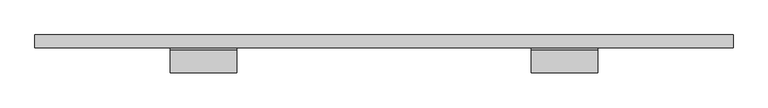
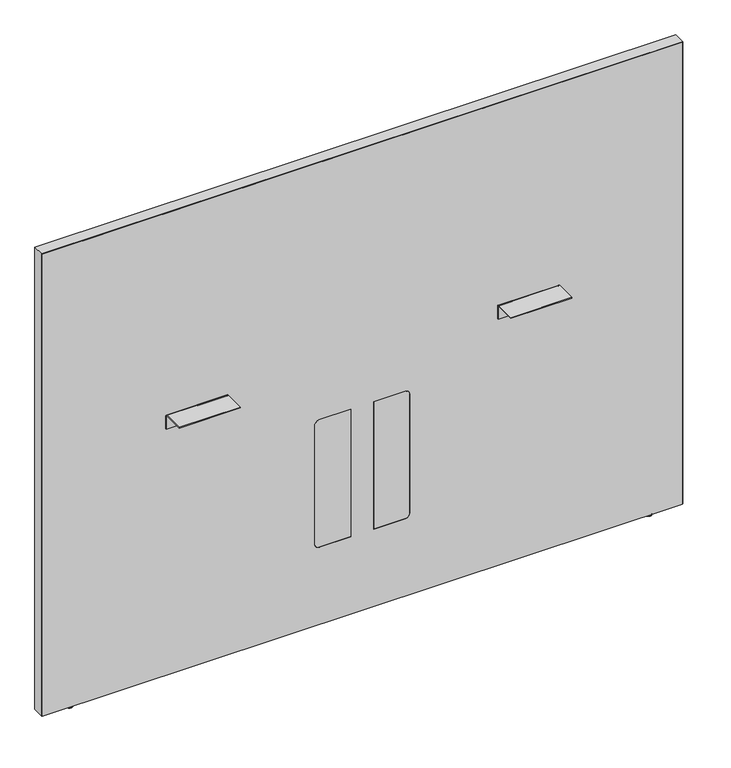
"""IFC4 building model written with IfcOpenShell, lengths in millimetres: furniture geometry, Steelcase - Answer Solution - Boundary Screen - Straight - Spanning : 48H x 63W."""

import ifcopenshell
import ifcopenshell.guid

model = None  # the IFC model being written
_history = None  # IfcOwnerHistory: only IFC2X3 demands one
_inside = {}  # id of a spatial element -> (the spatial element, [elements in it])
_under = {}  # id of a project, library or spatial element -> (it, [spatial elements below it])
_declared = {}  # id of a project -> (the project, [libraries it declares])
_typed = {}  # id of a type object -> (the type object, [elements of that type])
_made_of = {}  # id of a material, layer set ... -> (it, [elements and type objects made of it])


def new_model(schema):
    """Start an empty IFC model of exactly this schema.

    Asked for "IFC4X3", IfcOpenShell would pick the latest addendum, in which some entities
    have other attributes; the version numbers below select the first issue.
    IFC2X3 requires an IfcOwnerHistory on every rooted entity: one is made here for all.
    """
    global model, _history
    if schema == "IFC4X3":
        model = ifcopenshell.file(schema_version=(4, 3, 0, 0))
    else:
        model = ifcopenshell.file(schema=schema)
    _inside.clear()
    _under.clear()
    _declared.clear()
    _typed.clear()
    _made_of.clear()
    _history = None
    if model.schema == "IFC2X3":
        org = make("IfcOrganization", Name="unknown")
        user = make(
            "IfcPersonAndOrganization",
            ThePerson=make("IfcPerson", FamilyName="unknown"),
            TheOrganization=org,
        )
        app = make(
            "IfcApplication",
            ApplicationDeveloper=org,
            Version="unknown",
            ApplicationFullName="unknown",
            ApplicationIdentifier="unknown",
        )
        _history = make(
            "IfcOwnerHistory",
            OwningUser=user,
            OwningApplication=app,
            ChangeAction="ADDED",
            CreationDate=0,
        )
    return model


def make(cls, **values):
    """One entity of the class cls with the attributes given. An attribute that is None is left unset."""
    return model.create_entity(
        cls, **{name: value for name, value in values.items() if value is not None}
    )


def rooted(cls, **values):
    """An entity with a GlobalId (a new one), such as an element, a storey or a relation."""
    return make(cls, GlobalId=ifcopenshell.guid.new(), OwnerHistory=_history, **values)


def si_unit(unit_type, name, prefix=None):
    """IfcSIUnit, for example si_unit("LENGTHUNIT", "METRE", prefix="MILLI")."""
    return make("IfcSIUnit", UnitType=unit_type, Prefix=prefix, Name=name)


def assignment(units):
    """IfcUnitAssignment: the units of a project."""
    return None if units is None else make("IfcUnitAssignment", Units=units)


def point(xyz):
    """IfcCartesianPoint."""
    return None if xyz is None else make("IfcCartesianPoint", Coordinates=xyz)


def direction(xyz):
    """IfcDirection."""
    return None if xyz is None else make("IfcDirection", DirectionRatios=xyz)


def frame(location, z_axis=None, x_axis=None):
    """IfcAxis2Placement3D, a coordinate frame: its origin and axes. An axis left out is left unset."""
    return make(
        "IfcAxis2Placement3D",
        Location=point(location),
        Axis=direction(z_axis),
        RefDirection=direction(x_axis),
    )


def frame_2d(location, x_axis=None):
    """IfcAxis2Placement2D, a coordinate frame in the plane: its origin and x axis."""
    return make(
        "IfcAxis2Placement2D", Location=point(location), RefDirection=direction(x_axis)
    )


def origin():
    """The frame at (0, 0, 0) with its axes left unset."""
    return frame((0.0, 0.0, 0.0))


def place(relative_to, where):
    """IfcLocalPlacement: puts the frame where relative to a parent placement (None: the world)."""
    return make(
        "IfcLocalPlacement", PlacementRelTo=relative_to, RelativePlacement=where
    )


def context(
    kind, dimensions, precision=None, world=None, true_north=None, identifier=None
):
    """IfcGeometricRepresentationContext, for example the 3D "Model" context."""
    return make(
        "IfcGeometricRepresentationContext",
        ContextIdentifier=identifier,
        ContextType=kind,
        CoordinateSpaceDimension=dimensions,
        Precision=precision,
        WorldCoordinateSystem=world,
        TrueNorth=true_north,
    )


def project(units=None, contexts=None):
    """IfcProject with its units and contexts."""
    return rooted(
        "IfcProject",
        Name="project",
        RepresentationContexts=contexts,
        UnitsInContext=assignment(units),
    )


def spatial(cls, under=None, at=None, **own):
    """A site, building, storey or space (cls), placed at a placement, below another one or the project."""
    s = rooted(cls, ObjectPlacement=at, **own)
    if under is not None:
        _under.setdefault(under.id(), (under, []))[1].append(s)
    return s


def polyline(points):
    """IfcPolyline through the points."""
    return make("IfcPolyline", Points=[point(p) for p in points])


def circle_curve(where, radius):
    """IfcCircle in the frame where."""
    return make("IfcCircle", Position=where, Radius=radius)


def ellipse_curve(where, semi_axis1, semi_axis2):
    """IfcEllipse in the frame where."""
    return make(
        "IfcEllipse", Position=where, SemiAxis1=semi_axis1, SemiAxis2=semi_axis2
    )


def trimmed(basis, trim1, trim2, sense, master):
    """IfcTrimmedCurve: the piece of a basis curve between two trims."""
    return make(
        "IfcTrimmedCurve",
        BasisCurve=basis,
        Trim1=trim1,
        Trim2=trim2,
        SenseAgreement=sense,
        MasterRepresentation=master,
    )


def segment(curve, same_sense, transition):
    """IfcCompositeCurveSegment."""
    return make(
        "IfcCompositeCurveSegment",
        Transition=transition,
        SameSense=same_sense,
        ParentCurve=curve,
    )


def composite_curve(segments, self_intersect=None):
    """IfcCompositeCurve: segments joined end to end."""
    return make("IfcCompositeCurve", Segments=segments, SelfIntersect=self_intersect)


def outline(outer, holes=None, kind="AREA"):
    """IfcArbitraryClosedProfileDef: a profile drawn as a closed curve; with holes, ...WithVoids."""
    if holes is None:
        return make("IfcArbitraryClosedProfileDef", ProfileType=kind, OuterCurve=outer)
    return make(
        "IfcArbitraryProfileDefWithVoids",
        ProfileType=kind,
        OuterCurve=outer,
        InnerCurves=holes,
    )


def extrude(swept, where, along, depth):
    """IfcExtrudedAreaSolid: the profile swept, set in the frame where, extruded along a direction by depth."""
    return make(
        "IfcExtrudedAreaSolid",
        SweptArea=swept,
        Position=where,
        ExtrudedDirection=direction(along),
        Depth=depth,
    )


def shape(context_of_items, identifier, shape_type, items):
    """IfcShapeRepresentation: the items that make up one representation, for example the "Body"."""
    return make(
        "IfcShapeRepresentation",
        ContextOfItems=context_of_items,
        RepresentationIdentifier=identifier,
        RepresentationType=shape_type,
        Items=items,
    )


def source(mapping_origin, context_of_items, identifier, shape_type, items):
    """IfcRepresentationMap: a shape defined once, which mapped items show again and again."""
    return make(
        "IfcRepresentationMap",
        MappingOrigin=mapping_origin,
        MappedRepresentation=shape(context_of_items, identifier, shape_type, items),
    )


def transform(
    local_origin,
    x_axis=None,
    y_axis=None,
    z_axis=None,
    scale=None,
    scale2=None,
    scale3=None,
    uniform=True,
):
    """IfcCartesianTransformationOperator3D, or its non-uniform kind. x_axis, y_axis, z_axis: its Axis1, 2, 3."""
    if uniform:
        return make(
            "IfcCartesianTransformationOperator3D",
            Axis1=direction(x_axis),
            Axis2=direction(y_axis),
            LocalOrigin=point(local_origin),
            Scale=scale,
            Axis3=direction(z_axis),
        )
    return make(
        "IfcCartesianTransformationOperator3DnonUniform",
        Axis1=direction(x_axis),
        Axis2=direction(y_axis),
        LocalOrigin=point(local_origin),
        Scale=scale,
        Axis3=direction(z_axis),
        Scale2=scale2,
        Scale3=scale3,
    )


def mapped(mapping_source, mapping_target):
    """IfcMappedItem: shows the shape of a source again, moved by a transform."""
    return make(
        "IfcMappedItem", MappingSource=mapping_source, MappingTarget=mapping_target
    )


def made_of(thing, what):
    """Note that an element or type object is made of a material, layer set ...; save() writes the relation."""
    if what is not None:
        _made_of.setdefault(what.id(), (what, []))[1].append(thing)
    return thing


def element(
    cls,
    number,
    at=None,
    inside=None,
    cuts=None,
    type_object=None,
    material=None,
    context=None,
    identifier="Body",
    shape_type=None,
    held_by="IfcProductDefinitionShape",
    body=None,
    shapes=None,
    **own,
):
    """One element of the class cls, such as IfcWall. Its Tag is "e" and its number.

    at: its placement. inside: the storey or other place that contains it. cuts: it is an
    opening in that element (IfcRelVoidsElement). A single representation is given by context,
    identifier, shape_type and body (its items); several are given by shapes. held_by: the class
    of the entity that holds the representations. save() writes the other relations.
    """
    e = rooted(cls, Tag="e%d" % number, ObjectPlacement=at, **own)
    if body is not None:
        shapes = [shape(context, identifier, shape_type, body)]
    if shapes is not None:
        e.Representation = make(held_by, Representations=shapes)
    if inside is not None:
        _inside.setdefault(inside.id(), (inside, []))[1].append(e)
    if cuts is not None:
        rooted(
            "IfcRelVoidsElement", RelatingBuildingElement=cuts, RelatedOpeningElement=e
        )
    if type_object is not None:
        _typed.setdefault(type_object.id(), (type_object, []))[1].append(e)
    return made_of(e, material)


def aggregate(whole, parts):
    """IfcRelAggregates: a whole, such as a stair, and the parts it consists of."""
    return rooted("IfcRelAggregates", RelatingObject=whole, RelatedObjects=parts)


def save(model, path):
    """Write the relations noted so far, then the file.

    IfcRelAggregates (storeys below a building ...), IfcRelContainedInSpatialStructure (elements
    in a storey), IfcRelDefinesByType, IfcRelAssociatesMaterial and IfcRelDeclares: one each for
    every whole, place, type object, material and project.
    """
    for whole, parts in _under.values():
        aggregate(whole, parts)
    for where, things in _inside.values():
        rooted(
            "IfcRelContainedInSpatialStructure",
            RelatedElements=things,
            RelatingStructure=where,
        )
    for kind, things in _typed.values():
        rooted("IfcRelDefinesByType", RelatedObjects=things, RelatingType=kind)
    for what, things in _made_of.values():
        rooted("IfcRelAssociatesMaterial", RelatedObjects=things, RelatingMaterial=what)
    for by, libraries in _declared.values():
        rooted("IfcRelDeclares", RelatingContext=by, RelatedDefinitions=libraries)
    model.write(path)


def plane_surface(at):
    """IfcPlane: the flat surface through the origin of the frame at, square to its z axis."""
    return make("IfcPlane", Position=at)


def cylinder_surface(at, radius):
    """IfcCylindricalSurface: all points at the distance radius from the z axis of the frame at."""
    return make("IfcCylindricalSurface", Position=at, Radius=radius)


def revolved_surface(curve, axis_point, axis_direction):
    """IfcSurfaceOfRevolution: the curve turned about the line through axis_point along axis_direction."""
    return make(
        "IfcSurfaceOfRevolution",
        SweptCurve=make("IfcArbitraryOpenProfileDef", ProfileType="CURVE", Curve=curve),
        AxisPosition=make("IfcAxis1Placement", Location=point(axis_point), Axis=direction(axis_direction)),
    )


def advanced_brep(points, edges, surfaces, faces):
    """IfcAdvancedBrep: a solid bounded by faces that lie on surfaces and meet in shared edges.

    An edge is (start, end): straight between two places in points (the first is 0);
    or (start, end, curve); or (start, end, curve, False) where it runs against its curve.
    A face is (place in surfaces, loops), or (place, loops, False) where it looks against
    its surface's normal. A loop lists edges by number (the first is 1), with a minus sign
    where the edge is run from its end to its start. The first loop is the outer one.
    """
    corners = [point(p) for p in points]
    vertices = [make("IfcVertexPoint", VertexGeometry=c) for c in corners]
    made = []
    for start, end, *more in edges:
        made.append(
            make(
                "IfcEdgeCurve",
                EdgeStart=vertices[start],
                EdgeEnd=vertices[end],
                EdgeGeometry=more[0] if more else make("IfcPolyline", Points=[corners[start], corners[end]]),
                SameSense=more[1] if len(more) > 1 else True,
            )
        )
    hull = []
    for where, loops, *sense in faces:
        bounds = []
        for j, loop in enumerate(loops):
            ring = [make("IfcOrientedEdge", EdgeElement=made[abs(k) - 1], Orientation=k > 0) for k in loop]
            bounds.append(
                make(
                    "IfcFaceOuterBound" if j == 0 else "IfcFaceBound",
                    Bound=make("IfcEdgeLoop", EdgeList=ring),
                    Orientation=True,
                )
            )
        hull.append(make("IfcAdvancedFace", Bounds=bounds, FaceSurface=surfaces[where], SameSense=sense[0] if sense else True))
    return make("IfcAdvancedBrep", Outer=make("IfcClosedShell", CfsFaces=hull))


def furniture_06fa584e(model_context):
    return source(origin(), model_context, "Body", "SolidModel", [
        advanced_brep(
        [(-493.0902705, -14.8449166, 9.9059849), (-493.0902705, -5.9309607, 9.9059849), (-493.0902705, -23.7588726, 9.9059849), (-493.0902705, -5.9309607, 2.9673238), (-493.0902705, -23.7588726, 2.9673238), (-493.0902705, -6.8982978, 2.9673238), (-493.0902705, -22.7915354, 2.9673238), (-493.0902705, -6.8982978, 1.6569081), (-493.0902705, -22.7915354, 1.6569081), (-493.0902705, -8.5552059, 0.0), (-493.0902705, -21.1346274, 0.0), (-493.0902705, -14.8449166, 0.0)],
        [
            (0, 1),
            (1, 2, circle_curve(frame((-493.0902705, -14.8449166, 9.9059849), z_axis=(0.0, 0.0, 1.0), x_axis=(0.0, 1.0, 0.0)), 8.913956)),
            (2, 0),
            (2, 1, circle_curve(frame((-493.0902705, -14.8449166, 9.9059849), z_axis=(0.0, 0.0, 1.0), x_axis=(0.0, 1.0, 0.0)), 8.913956)),
            (1, 3),
            (3, 4, circle_curve(frame((-493.0902705, -14.8449166, 2.9673238), z_axis=(0.0, 0.0, 1.0), x_axis=(0.0, 1.0, 0.0)), 8.913956)),
            (4, 2),
            (4, 3, circle_curve(frame((-493.0902705, -14.8449166, 2.9673238), z_axis=(0.0, 0.0, 1.0), x_axis=(0.0, 1.0, 0.0)), 8.913956)),
            (3, 5),
            (5, 6, circle_curve(frame((-493.0902705, -14.8449166, 2.9673238), z_axis=(0.0, 0.0, 1.0), x_axis=(0.0, 1.0, 0.0)), 7.9466188)),
            (6, 4),
            (6, 5, circle_curve(frame((-493.0902705, -14.8449166, 2.9673238), z_axis=(0.0, 0.0, 1.0), x_axis=(0.0, 1.0, 0.0)), 7.9466188)),
            (5, 7),
            (7, 8, circle_curve(frame((-493.0902705, -14.8449166, 1.6569081), z_axis=(0.0, 0.0, 1.0), x_axis=(0.0, 1.0, 0.0)), 7.9466188)),
            (8, 6),
            (8, 7, circle_curve(frame((-493.0902705, -14.8449166, 1.6569081), z_axis=(0.0, 0.0, 1.0), x_axis=(0.0, 1.0, 0.0)), 7.9466188)),
            (7, 9, circle_curve(frame((-493.0902705, -8.5552059, 1.6569081), z_axis=(-1.0, 0.0, 0.0), x_axis=(0.0, 1.0, 0.0)), 1.6569081)),
            (9, 10, circle_curve(frame((-493.0902705, -14.8449166, 0.0), z_axis=(0.0, 0.0, 1.0), x_axis=(0.0, 1.0, 0.0)), 6.2897107)),
            (10, 8, circle_curve(frame((-493.0902705, -21.1346274, 1.6569081), z_axis=(-1.0, 0.0, 0.0), x_axis=(0.0, -1.0, 0.0)), 1.6569081)),
            (10, 9, circle_curve(frame((-493.0902705, -14.8449166, 0.0), z_axis=(0.0, 0.0, 1.0), x_axis=(0.0, 1.0, 0.0)), 6.2897107)),
            (9, 11),
            (11, 10),
        ],
        [
            plane_surface(frame((-493.0902705, -14.8449166, 9.9059849), z_axis=(0.0, 0.0, 1.0), x_axis=(0.0, 1.0, 0.0))),
            cylinder_surface(frame((-493.0902705, -14.8449166, 9.9059849), z_axis=(0.0, 0.0, 1.0), x_axis=(0.0, 1.0, 0.0)), 8.913956),
            plane_surface(frame((-493.0902705, -14.8449166, 2.9673238), z_axis=(0.0, 0.0, -1.0), x_axis=(0.0, 1.0, 0.0))),
            cylinder_surface(frame((-493.0902705, -14.8449166, 9.9059849), z_axis=(0.0, 0.0, 1.0), x_axis=(0.0, 1.0, 0.0)), 7.9466188),
            revolved_surface(trimmed(ellipse_curve(frame((-493.0902705, -8.5552059, 1.6569081), z_axis=(1.0, 0.0, 0.0), x_axis=(0.0, 1.0, 0.0)), 1.6569081, 1.6569081), [point((-493.0902705, -8.5552059, 0.0))], [point((-493.0902705, -6.8982978, 1.6569081))], True, "CARTESIAN"), (-493.0902705, -14.8449166, 9.9059849), (0.0, 0.0, 1.0)),
            plane_surface(frame((-493.0902705, -14.8449166, 0.0), z_axis=(0.0, 0.0, -1.0), x_axis=(0.0, 1.0, 0.0))),
        ],
        [
            (0, [[1, 2, 3]]),
            (0, [[-3, 4, -1]]),
            (1, [[-2, 5, 6, 7]]),
            (1, [[-4, -7, 8, -5]]),
            (2, [[-6, 9, 10, 11]]),
            (2, [[-8, -11, 12, -9]]),
            (3, [[-10, 13, 14, 15]]),
            (3, [[-12, -15, 16, -13]]),
            (4, [[-14, 17, 18, 19]]),
            (4, [[-16, -19, 20, -17]]),
            (5, [[-18, 21, 22]]),
            (5, [[-20, -22, -21]]),
        ],
    ),
        extrude(outline(composite_curve([segment(polyline([(-86.8398151, 696.4680019), (-86.8398151, 698.5), (-34.9450855, 698.5)]), True, "CONTINUOUS"), segment(trimmed(circle_curve(frame_2d((-34.9450855, 693.2447477)), 5.2552523), [point((-34.9450855, 698.5))], [point((-29.6898332, 693.2447477))], False, "CARTESIAN"), True, "CONTINUOUS"), segment(polyline([(-29.6898332, 693.2447477), (-29.6898332, 660.4), (-31.7218162, 660.4), (-31.7218162, 693.0058743)]), True, "CONTINUOUS"), segment(trimmed(circle_curve(frame_2d((-35.1839438, 693.0058743)), 3.4621276), [point((-31.7218162, 693.0058743))], [point((-35.1839438, 696.4680019))], True, "CARTESIAN"), True, "CONTINUOUS"), segment(polyline([(-35.1839438, 696.4680019), (-86.8398151, 696.4680019)]), True, "CONTINUOUS")], self_intersect=False)), frame((567.8282189, 0.0, 0.0), z_axis=(1.0, 0.0, 0.0), x_axis=(0.0, 1.0, 0.0)), (0.0, 0.0, 1.0), 152.4000969),
        extrude(outline(composite_curve([segment(polyline([(-86.8398151, 696.4680019), (-86.8398151, 698.5), (-34.9450855, 698.5)]), True, "CONTINUOUS"), segment(trimmed(circle_curve(frame_2d((-34.9450855, 693.2447477)), 5.2552523), [point((-34.9450855, 698.5))], [point((-29.6898332, 693.2447477))], False, "CARTESIAN"), True, "CONTINUOUS"), segment(polyline([(-29.6898332, 693.2447477), (-29.6898332, 660.4), (-31.7218162, 660.4), (-31.7218162, 693.0058743)]), True, "CONTINUOUS"), segment(trimmed(circle_curve(frame_2d((-35.1839438, 693.0058743)), 3.4621276), [point((-31.7218162, 693.0058743))], [point((-35.1839438, 696.4680019))], True, "CARTESIAN"), True, "CONTINUOUS"), segment(polyline([(-35.1839438, 696.4680019), (-86.8398151, 696.4680019)]), True, "CONTINUOUS")], self_intersect=False)), frame((-260.5884581, 0.0, 0.0), z_axis=(1.0, 0.0, 0.0), x_axis=(0.0, 1.0, 0.0)), (0.0, 0.0, 1.0), 152.4000969),
        advanced_brep(
        [(952.7286488, -23.7588726, 9.9059849), (952.7286488, -5.9309607, 9.9059849), (952.7286488, -14.8449166, 9.9059849), (952.7286488, -23.7588726, 2.9673238), (952.7286488, -5.9309607, 2.9673238), (952.7286488, -22.7915354, 2.9673238), (952.7286488, -6.8982978, 2.9673238), (952.7286488, -22.7915354, 1.6569081), (952.7286488, -6.8982978, 1.6569081), (952.7286488, -21.1346274, 0.0), (952.7286488, -8.5552059, 0.0), (952.7286488, -14.8449166, 0.0)],
        [
            (0, 1, circle_curve(frame((952.7286488, -14.8449166, 9.9059849), z_axis=(0.0, 0.0, 1.0), x_axis=(0.0, 1.0, 0.0)), 8.913956)),
            (1, 2),
            (2, 0),
            (1, 0, circle_curve(frame((952.7286488, -14.8449166, 9.9059849), z_axis=(0.0, 0.0, 1.0), x_axis=(0.0, 1.0, 0.0)), 8.913956)),
            (3, 4, circle_curve(frame((952.7286488, -14.8449166, 2.9673238), z_axis=(0.0, 0.0, 1.0), x_axis=(0.0, 1.0, 0.0)), 8.913956)),
            (4, 1),
            (0, 3),
            (4, 3, circle_curve(frame((952.7286488, -14.8449166, 2.9673238), z_axis=(0.0, 0.0, 1.0), x_axis=(0.0, 1.0, 0.0)), 8.913956)),
            (5, 6, circle_curve(frame((952.7286488, -14.8449166, 2.9673238), z_axis=(0.0, 0.0, 1.0), x_axis=(0.0, 1.0, 0.0)), 7.9466188)),
            (6, 4),
            (3, 5),
            (6, 5, circle_curve(frame((952.7286488, -14.8449166, 2.9673238), z_axis=(0.0, 0.0, 1.0), x_axis=(0.0, 1.0, 0.0)), 7.9466188)),
            (7, 8, circle_curve(frame((952.7286488, -14.8449166, 1.6569081), z_axis=(0.0, 0.0, 1.0), x_axis=(0.0, 1.0, 0.0)), 7.9466188)),
            (8, 6),
            (5, 7),
            (8, 7, circle_curve(frame((952.7286488, -14.8449166, 1.6569081), z_axis=(0.0, 0.0, 1.0), x_axis=(0.0, 1.0, 0.0)), 7.9466188)),
            (9, 10, circle_curve(frame((952.7286488, -14.8449166, 0.0), z_axis=(0.0, 0.0, 1.0), x_axis=(0.0, 1.0, 0.0)), 6.2897107)),
            (10, 8, circle_curve(frame((952.7286488, -8.5552059, 1.6569081), z_axis=(1.0, 0.0, 0.0), x_axis=(0.0, 1.0, 0.0)), 1.6569081)),
            (7, 9, circle_curve(frame((952.7286488, -21.1346274, 1.6569081), z_axis=(1.0, 0.0, 0.0), x_axis=(0.0, -1.0, 0.0)), 1.6569081)),
            (10, 9, circle_curve(frame((952.7286488, -14.8449166, 0.0), z_axis=(0.0, 0.0, 1.0), x_axis=(0.0, 1.0, 0.0)), 6.2897107)),
            (11, 10),
            (9, 11),
        ],
        [
            plane_surface(frame((952.7286488, -14.8449166, 9.9059849), z_axis=(0.0, 0.0, 1.0), x_axis=(0.0, 1.0, 0.0))),
            cylinder_surface(frame((952.7286488, -14.8449166, 9.9059849), z_axis=(0.0, 0.0, -1.0), x_axis=(0.0, 1.0, 0.0)), 8.913956),
            plane_surface(frame((952.7286488, -14.8449166, 2.9673238), z_axis=(0.0, 0.0, -1.0), x_axis=(0.0, 1.0, 0.0))),
            cylinder_surface(frame((952.7286488, -14.8449166, 9.9059849), z_axis=(0.0, 0.0, -1.0), x_axis=(0.0, 1.0, 0.0)), 7.9466188),
            revolved_surface(trimmed(ellipse_curve(frame((952.7286488, -8.5552059, 1.6569081), z_axis=(-1.0, 0.0, 0.0), x_axis=(0.0, 1.0, 0.0)), 1.6569081, 1.6569081), [point((952.7286488, -6.8982978, 1.6569081))], [point((952.7286488, -8.5552059, 0.0))], True, "CARTESIAN"), (952.7286488, -14.8449166, 9.9059849), (0.0, 0.0, -1.0)),
            plane_surface(frame((952.7286488, -14.8449166, 0.0), z_axis=(0.0, 0.0, -1.0), x_axis=(0.0, 1.0, 0.0))),
        ],
        [
            (0, [[1, 2, 3]]),
            (0, [[4, -3, -2]]),
            (1, [[5, 6, -1, 7]]),
            (1, [[8, -7, -4, -6]]),
            (2, [[9, 10, -5, 11]]),
            (2, [[12, -11, -8, -10]]),
            (3, [[13, 14, -9, 15]]),
            (3, [[16, -15, -12, -14]]),
            (4, [[17, 18, -13, 19]]),
            (4, [[20, -19, -16, -18]]),
            (5, [[21, -17, 22]]),
            (5, [[-22, -20, -21]]),
        ],
    ),
        advanced_brep(
        [(1028.8780168, 0.0, 1229.142118), (1028.8780168, 0.0, 9.9059849), (-569.2902221, 0.0, 9.9059849), (-569.2902221, 0.0, 1229.142118), (1028.8780168, -29.6898332, 1229.142118), (-569.2902221, -29.6898332, 1229.142118), (-569.2902221, -29.6898332, 9.9059849), (1028.8780168, -29.6898332, 9.9059849), (337.7883813, -29.6898332, 549.6162029), (347.9483813, -29.6898332, 539.4562029), (347.9483813, -29.6898332, 223.9362137), (337.7883813, -29.6898332, 213.7762137), (258.1344836, -29.6898332, 213.7762137), (258.1344836, -29.6898332, 549.6162029), (121.849997, -29.6898332, 549.6162029), (201.5038947, -29.6898332, 549.6162029), (201.5038947, -29.6898332, 213.7762137), (121.849997, -29.6898332, 213.7762137), (111.689997, -29.6898332, 223.9362137), (111.689997, -29.6898332, 539.4562029), (258.1344836, -29.0550397, 549.6162029), (337.7883813, -29.0550397, 549.6162029), (258.1344836, -29.0550397, 213.7762137), (337.7883813, -29.0550397, 213.7762137), (347.9483813, -29.0550397, 223.9362137), (347.9483813, -29.0550397, 539.4562029), (121.849997, -29.0550397, 549.6162029), (111.689997, -29.0550397, 539.4562029), (111.689997, -29.0550397, 223.9362137), (121.849997, -29.0550397, 213.7762137), (201.5038947, -29.0550397, 213.7762137), (201.5038947, -29.0550397, 549.6162029)],
        [
            (0, 1),
            (1, 2),
            (2, 3),
            (3, 0),
            (4, 5),
            (5, 6),
            (6, 7),
            (7, 4),
            (8, 9, circle_curve(frame((337.7883813, -29.6898332, 539.4562029), z_axis=(0.0, 1.0, 0.0), x_axis=(0.0, 0.0, 1.0)), 10.16)),
            (9, 10),
            (10, 11, circle_curve(frame((337.7883813, -29.6898332, 223.9362137), z_axis=(0.0, 1.0, 0.0), x_axis=(0.0, 0.0, 1.0)), 10.16)),
            (11, 12),
            (12, 13),
            (13, 8),
            (14, 15),
            (15, 16),
            (16, 17),
            (17, 18, circle_curve(frame((121.849997, -29.6898332, 223.9362137), z_axis=(0.0, 1.0, 0.0), x_axis=(0.0, 0.0, 1.0)), 10.16)),
            (18, 19),
            (19, 14, circle_curve(frame((121.849997, -29.6898332, 539.4562029), z_axis=(0.0, 1.0, 0.0), x_axis=(0.0, 0.0, 1.0)), 10.16)),
            (0, 4),
            (7, 1),
            (6, 2),
            (5, 3),
            (13, 20),
            (20, 21),
            (21, 8),
            (12, 22),
            (22, 20),
            (11, 23),
            (23, 22),
            (10, 24),
            (24, 23, circle_curve(frame((337.7883813, -29.0550397, 223.9362137), z_axis=(0.0, 1.0, 0.0), x_axis=(0.0, 0.0, 1.0)), 10.16)),
            (9, 25),
            (25, 24),
            (21, 25, circle_curve(frame((337.7883813, -29.0550397, 539.4562029), z_axis=(0.0, 1.0, 0.0), x_axis=(0.0, 0.0, 1.0)), 10.16)),
            (26, 27, circle_curve(frame((121.849997, -29.0550397, 539.4562029), z_axis=(0.0, -1.0, 0.0), x_axis=(0.0, 0.0, 1.0)), 10.16)),
            (27, 28),
            (28, 29, circle_curve(frame((121.849997, -29.0550397, 223.9362137), z_axis=(0.0, -1.0, 0.0), x_axis=(0.0, 0.0, 1.0)), 10.16)),
            (29, 30),
            (30, 31),
            (31, 26),
            (19, 27),
            (26, 14),
            (18, 28),
            (17, 29),
            (16, 30),
            (15, 31),
        ],
        [
            plane_surface(frame((1028.8780168, 0.0, 1229.142118), z_axis=(0.0, 1.0, 0.0), x_axis=(0.0, 0.0, -1.0))),
            plane_surface(frame((1028.8780168, -29.6898332, 1229.142118), z_axis=(0.0, -1.0, 0.0), x_axis=(0.0, 0.0, 1.0))),
            plane_surface(frame((1028.8780168, 0.0, 1229.142118), z_axis=(1.0, 0.0, 0.0), x_axis=(0.0, -1.0, 0.0))),
            plane_surface(frame((1028.8780168, 0.0, 9.9059849), z_axis=(0.0, 0.0, -1.0), x_axis=(0.0, -1.0, 0.0))),
            plane_surface(frame((-569.2902221, 0.0, 9.9059849), z_axis=(-1.0, 0.0, 0.0), x_axis=(0.0, -1.0, 0.0))),
            plane_surface(frame((-569.2902221, 0.0, 1229.142118), z_axis=(0.0, 0.0, 1.0), x_axis=(0.0, -1.0, 0.0))),
            plane_surface(frame((337.7883813, 0.0, 549.6162029), z_axis=(0.0, 0.0, -1.0), x_axis=(0.0, -1.0, 0.0))),
            plane_surface(frame((258.1344836, 0.0, 549.6162029), z_axis=(1.0, 0.0, 0.0), x_axis=(0.0, -1.0, 0.0))),
            plane_surface(frame((258.1344836, 0.0, 213.7762137), z_axis=(0.0, 0.0, 1.0), x_axis=(0.0, -1.0, 0.0))),
            revolved_surface(polyline([(337.7883813, -29.6898332, 234.0962137), (337.7883813, -29.0550397, 234.0962137)]), (337.7883813, -29.6898332, 223.9362137), (0.0, -1.0, 0.0)),
            plane_surface(frame((347.9483813, 0.0, 223.9362137), z_axis=(-1.0, 0.0, 0.0), x_axis=(0.0, -1.0, 0.0))),
            revolved_surface(polyline([(337.7883813, -29.6898332, 549.6162029), (337.7883813, -29.0550397, 549.6162029)]), (337.7883813, -29.6898332, 539.4562029), (0.0, -1.0, 0.0)),
            plane_surface(frame((347.9483813, -29.0550397, 549.6162029), z_axis=(0.0, -1.0, 0.0), x_axis=(0.0, 0.0, 1.0))),
            revolved_surface(polyline([(121.849997, -29.6898332, 549.6162029), (121.849997, -29.0550397, 549.6162029)]), (121.849997, -29.6898332, 539.4562029), (0.0, -1.0, 0.0)),
            plane_surface(frame((111.689997, 0.0, 539.4562029), z_axis=(1.0, 0.0, 0.0), x_axis=(0.0, -1.0, 0.0))),
            revolved_surface(polyline([(121.849997, -29.6898332, 234.0962137), (121.849997, -29.0550397, 234.0962137)]), (121.849997, -29.6898332, 223.9362137), (0.0, -1.0, 0.0)),
            plane_surface(frame((121.849997, 0.0, 213.7762137), z_axis=(0.0, 0.0, 1.0), x_axis=(0.0, -1.0, 0.0))),
            plane_surface(frame((201.5038947, 0.0, 213.7762137), z_axis=(-1.0, 0.0, 0.0), x_axis=(0.0, -1.0, 0.0))),
            plane_surface(frame((201.5038947, 0.0, 549.6162029), z_axis=(0.0, 0.0, -1.0), x_axis=(0.0, -1.0, 0.0))),
        ],
        [
            (0, [[1, 2, 3, 4]]),
            (1, [[5, 6, 7, 8], [9, 10, 11, 12, 13, 14], [15, 16, 17, 18, 19, 20]]),
            (2, [[-1, 21, -8, 22]]),
            (3, [[-2, -22, -7, 23]]),
            (4, [[-3, -23, -6, 24]]),
            (5, [[-4, -24, -5, -21]]),
            (6, [[-14, 25, 26, 27]]),
            (7, [[-13, 28, 29, -25]]),
            (8, [[-12, 30, 31, -28]]),
            (9, [[-11, 32, 33, -30]]),
            (10, [[-10, 34, 35, -32]]),
            (11, [[-9, -27, 36, -34]]),
            (12, [[-26, -29, -31, -33, -35, -36]]),
            (12, [[37, 38, 39, 40, 41, 42]]),
            (13, [[-20, 43, -37, 44]]),
            (14, [[-19, 45, -38, -43]]),
            (15, [[-18, 46, -39, -45]]),
            (16, [[-17, 47, -40, -46]]),
            (17, [[-16, 48, -41, -47]]),
            (18, [[-15, -44, -42, -48]]),
        ],
    ),
        extrude(outline(composite_curve([segment(polyline([(549.6162029, 337.7883813), (549.6162029, 258.1344836), (213.7762137, 258.1344836), (213.7762137, 337.7883813)]), True, "CONTINUOUS"), segment(trimmed(circle_curve(frame_2d((223.9362137, 337.7883813)), 10.16), [point((213.7762137, 337.7883813))], [point((223.9362137, 347.9483813))], False, "CARTESIAN"), True, "CONTINUOUS"), segment(polyline([(223.9362137, 347.9483813), (539.4562029, 347.9483813)]), True, "CONTINUOUS"), segment(trimmed(circle_curve(frame_2d((539.4562029, 337.7883813)), 10.16), [point((539.4562029, 347.9483813))], [point((549.6162029, 337.7883813))], False, "CARTESIAN"), True, "CONTINUOUS")], self_intersect=False)), frame((0.0, -29.6898332, 0.0), z_axis=(0.0, 1.0, 0.0), x_axis=(0.0, 0.0, 1.0)), (0.0, 0.0, 1.0), 0.6347935),
        extrude(outline(composite_curve([segment(trimmed(circle_curve(frame_2d((539.4562029, 121.849997)), 10.16), [point((549.6162029, 121.849997))], [point((539.4562029, 111.689997))], False, "CARTESIAN"), True, "CONTINUOUS"), segment(polyline([(539.4562029, 111.689997), (223.9362137, 111.689997)]), True, "CONTINUOUS"), segment(trimmed(circle_curve(frame_2d((223.9362137, 121.849997)), 10.16), [point((223.9362137, 111.689997))], [point((213.7762137, 121.849997))], False, "CARTESIAN"), True, "CONTINUOUS"), segment(polyline([(213.7762137, 121.849997), (213.7762137, 201.5038947), (549.6162029, 201.5038947), (549.6162029, 121.849997)]), True, "CONTINUOUS")], self_intersect=False)), frame((0.0, -29.6898332, 0.0), z_axis=(0.0, 1.0, 0.0), x_axis=(0.0, 0.0, 1.0)), (0.0, 0.0, 1.0), 0.6347935),
        extrude(outline(polyline([(1230.122, 1029.9191891), (1230.122, -570.2808109), (9.9059849, -570.2808109), (9.9059849, -569.2902221), (1229.142118, -569.2902221), (1229.142118, 1028.8780168), (9.9059849, 1028.8780168), (9.9059849, 1029.9191891), (1230.122, 1029.9191891)])), frame((0.0, -29.6898332, 0.0), z_axis=(0.0, 1.0, 0.0), x_axis=(0.0, 0.0, 1.0)), (0.0, 0.0, 1.0), 29.6898332),
    ])


if __name__ == "__main__":
    model = new_model("IFC4")
    model_context = context("Model", 3, world=origin())
    ifc_project = project(units=[si_unit("LENGTHUNIT", "METRE", prefix="MILLI")], contexts=[model_context])
    site = spatial("IfcSite", under=ifc_project)
    building = spatial("IfcBuilding", under=site)
    placement = place(None, origin())
    furniture_shape = furniture_06fa584e(model_context)
    element("IfcFurniture", 1, ObjectType="Steelcase - Answer Solution - Boundary Screen - Straight - Spanning : 48H x 63W", at=placement, inside=building, context=model_context, shape_type="MappedRepresentation", body=[
        mapped(furniture_shape, transform((0.0, 0.0, 0.0), x_axis=(1.0, 0.0, 0.0), y_axis=(0.0, 1.0, 0.0), z_axis=(0.0, 0.0, 1.0))),
    ])
    save(model, "model.ifc")
